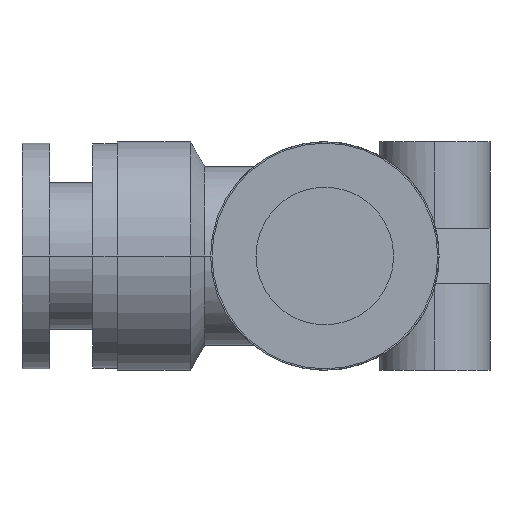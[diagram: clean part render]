
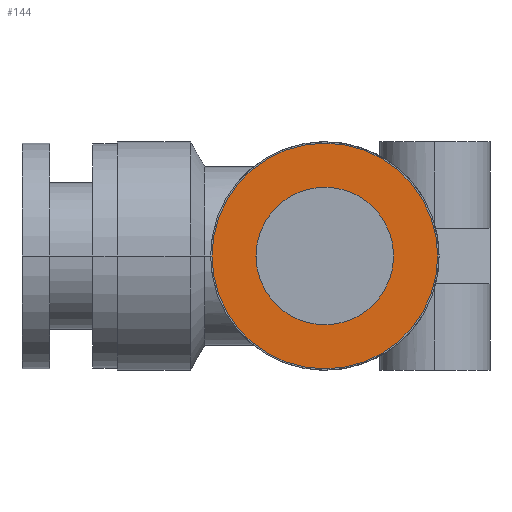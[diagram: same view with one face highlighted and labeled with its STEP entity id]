
A CAD part, left-side view. The second image highlights one B-rep face of the part: STEP entity #144.
In plain terms, the highlighted planar face has unit normal (-1, 0, 0).
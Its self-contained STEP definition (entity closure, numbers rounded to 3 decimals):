
#144 = ADVANCED_FACE( '', ( #297, #298 ), #299, .T. );
#297 = FACE_BOUND( '', #451, .T. );
#298 = FACE_OUTER_BOUND( '', #452, .T. );
#299 = PLANE( '', #453 );
#451 = EDGE_LOOP( '', ( #973, #974 ) );
#452 = EDGE_LOOP( '', ( #975, #976 ) );
#453 = AXIS2_PLACEMENT_3D( '', #977, #978, #979 );
#973 = ORIENTED_EDGE( '', *, *, #1077, .T. );
#974 = ORIENTED_EDGE( '', *, *, #1073, .T. );
#975 = ORIENTED_EDGE( '', *, *, #983, .T. );
#976 = ORIENTED_EDGE( '', *, *, #1137, .T. );
#977 = CARTESIAN_POINT( '', ( -22., 4.1, 0. ) );
#978 = DIRECTION( '', ( -1., 0., 0. ) );
#979 = DIRECTION( '', ( 0., 1., 0. ) );
#983 = EDGE_CURVE( '', #1139, #1143, #1145, .T. );
#1073 = EDGE_CURVE( '', #1318, #1315, #1319, .T. );
#1077 = EDGE_CURVE( '', #1315, #1318, #1324, .T. );
#1137 = EDGE_CURVE( '', #1143, #1139, #1397, .T. );
#1139 = VERTEX_POINT( '', #1399 );
#1143 = VERTEX_POINT( '', #1404 );
#1145 = CIRCLE( '', #1407, 8.2 );
#1315 = VERTEX_POINT( '', #1672 );
#1318 = VERTEX_POINT( '', #1676 );
#1319 = CIRCLE( '', #1677, 5. );
#1324 = CIRCLE( '', #1683, 5. );
#1397 = CIRCLE( '', #1821, 8.2 );
#1399 = CARTESIAN_POINT( '', ( -22., 8.2, 0. ) );
#1404 = CARTESIAN_POINT( '', ( -22., -8.2, 0. ) );
#1407 = AXIS2_PLACEMENT_3D( '', #1827, #1828, #1829 );
#1672 = CARTESIAN_POINT( '', ( -22., 5., 0. ) );
#1676 = CARTESIAN_POINT( '', ( -22., -5., 0. ) );
#1677 = AXIS2_PLACEMENT_3D( '', #1998, #1999, #2000 );
#1683 = AXIS2_PLACEMENT_3D( '', #2008, #2009, #2010 );
#1821 = AXIS2_PLACEMENT_3D( '', #2151, #2152, #2153 );
#1827 = CARTESIAN_POINT( '', ( -22., 0., 0. ) );
#1828 = DIRECTION( '', ( -1., 0., 0. ) );
#1829 = DIRECTION( '', ( 0., 1., 0. ) );
#1998 = CARTESIAN_POINT( '', ( -22., 0., 0. ) );
#1999 = DIRECTION( '', ( 1., 0., 0. ) );
#2000 = DIRECTION( '', ( 0., 1., 0. ) );
#2008 = CARTESIAN_POINT( '', ( -22., 0., 0. ) );
#2009 = DIRECTION( '', ( 1., 0., 0. ) );
#2010 = DIRECTION( '', ( 0., 1., 0. ) );
#2151 = CARTESIAN_POINT( '', ( -22., 0., 0. ) );
#2152 = DIRECTION( '', ( -1., 0., 0. ) );
#2153 = DIRECTION( '', ( 0., 1., 0. ) );
